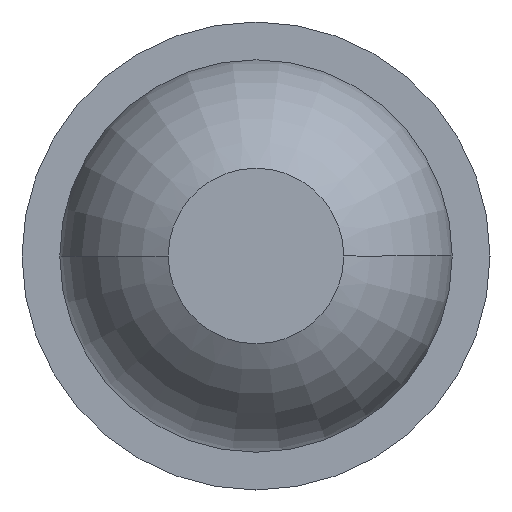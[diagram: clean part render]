
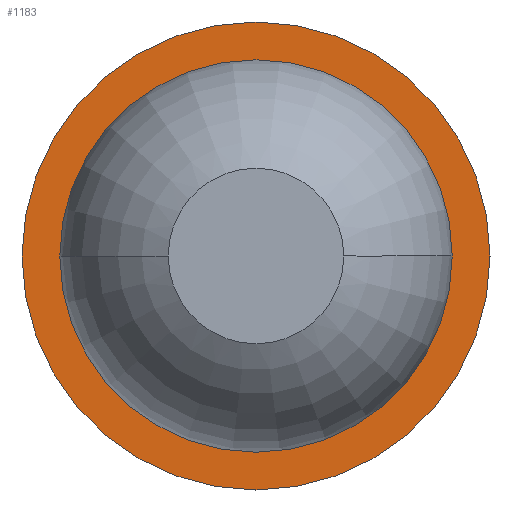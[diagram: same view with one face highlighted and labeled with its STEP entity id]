
A CAD part, left-side view. The second image highlights one B-rep face of the part: STEP entity #1183.
In plain terms, the highlighted planar face has unit normal (-1, 0, 0).
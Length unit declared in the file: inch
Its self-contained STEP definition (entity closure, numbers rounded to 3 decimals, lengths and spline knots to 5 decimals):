
#26 = AXIS2_PLACEMENT_3D ( 'NONE', #1198, #202, #1073 ) ;
#84 = CIRCLE ( 'NONE', #1543, 0.024 ) ;
#89 = ORIENTED_EDGE ( 'NONE', *, *, #680, .T. ) ;
#98 = CARTESIAN_POINT ( 'NONE',  ( 1.23, 0., 0. ) ) ;
#150 = CARTESIAN_POINT ( 'NONE',  ( 1.23, 0., 0.0123 ) ) ;
#202 = DIRECTION ( 'NONE',  ( 1., 0., 0. ) ) ;
#231 = DIRECTION ( 'NONE',  ( 1., 0., 0. ) ) ;
#233 = EDGE_LOOP ( 'NONE', ( #819, #1022 ) ) ;
#317 = VERTEX_POINT ( 'NONE', #505 ) ;
#328 = EDGE_LOOP ( 'NONE', ( #1286, #89 ) ) ;
#375 = PLANE ( 'NONE',  #1124 ) ;
#448 = EDGE_CURVE ( 'NONE', #1062, #862, #454, .T. ) ;
#453 = CARTESIAN_POINT ( 'NONE',  ( 1.23, 0., 0. ) ) ;
#454 = CIRCLE ( 'NONE', #1718, 0.024 ) ;
#505 = CARTESIAN_POINT ( 'NONE',  ( 1.23, 0., -0.0123 ) ) ;
#597 = DIRECTION ( 'NONE',  ( 0., 0., -1. ) ) ;
#601 = CARTESIAN_POINT ( 'NONE',  ( 1.23, 0., 0.024 ) ) ;
#680 = EDGE_CURVE ( 'NONE', #317, #1487, #730, .T. ) ;
#727 = CARTESIAN_POINT ( 'NONE',  ( 1.23, 0., 0. ) ) ;
#730 = CIRCLE ( 'NONE', #1573, 0.0123 ) ;
#740 = DIRECTION ( 'NONE',  ( -1., 0., 0. ) ) ;
#770 = DIRECTION ( 'NONE',  ( -1., 0., 0. ) ) ;
#777 = EDGE_CURVE ( 'NONE', #1487, #317, #979, .T. ) ;
#807 = DIRECTION ( 'NONE',  ( 0., 0., -1. ) ) ;
#819 = ORIENTED_EDGE ( 'NONE', *, *, #448, .T. ) ;
#862 = VERTEX_POINT ( 'NONE', #1191 ) ;
#979 = CIRCLE ( 'NONE', #26, 0.0123 ) ;
#1022 = ORIENTED_EDGE ( 'NONE', *, *, #1788, .T. ) ;
#1062 = VERTEX_POINT ( 'NONE', #601 ) ;
#1073 = DIRECTION ( 'NONE',  ( 0., 0., -1. ) ) ;
#1094 = FACE_BOUND ( 'NONE', #328, .T. ) ;
#1124 = AXIS2_PLACEMENT_3D ( 'NONE', #1517, #231, #807 ) ;
#1154 = DIRECTION ( 'NONE',  ( 0., 0., 1. ) ) ;
#1183 = ADVANCED_FACE ( 'NONE', ( #1094, #1662 ), #375, .F. ) ;
#1191 = CARTESIAN_POINT ( 'NONE',  ( 1.23, 0., -0.024 ) ) ;
#1198 = CARTESIAN_POINT ( 'NONE',  ( 1.23, 0., 0. ) ) ;
#1286 = ORIENTED_EDGE ( 'NONE', *, *, #777, .T. ) ;
#1487 = VERTEX_POINT ( 'NONE', #150 ) ;
#1517 = CARTESIAN_POINT ( 'NONE',  ( 1.23, 0.024, 0. ) ) ;
#1543 = AXIS2_PLACEMENT_3D ( 'NONE', #453, #740, #1154 ) ;
#1573 = AXIS2_PLACEMENT_3D ( 'NONE', #727, #1615, #597 ) ;
#1615 = DIRECTION ( 'NONE',  ( 1., 0., 0. ) ) ;
#1626 = DIRECTION ( 'NONE',  ( 0., 0., 1. ) ) ;
#1662 = FACE_OUTER_BOUND ( 'NONE', #233, .T. ) ;
#1718 = AXIS2_PLACEMENT_3D ( 'NONE', #98, #770, #1626 ) ;
#1788 = EDGE_CURVE ( 'NONE', #862, #1062, #84, .T. ) ;
